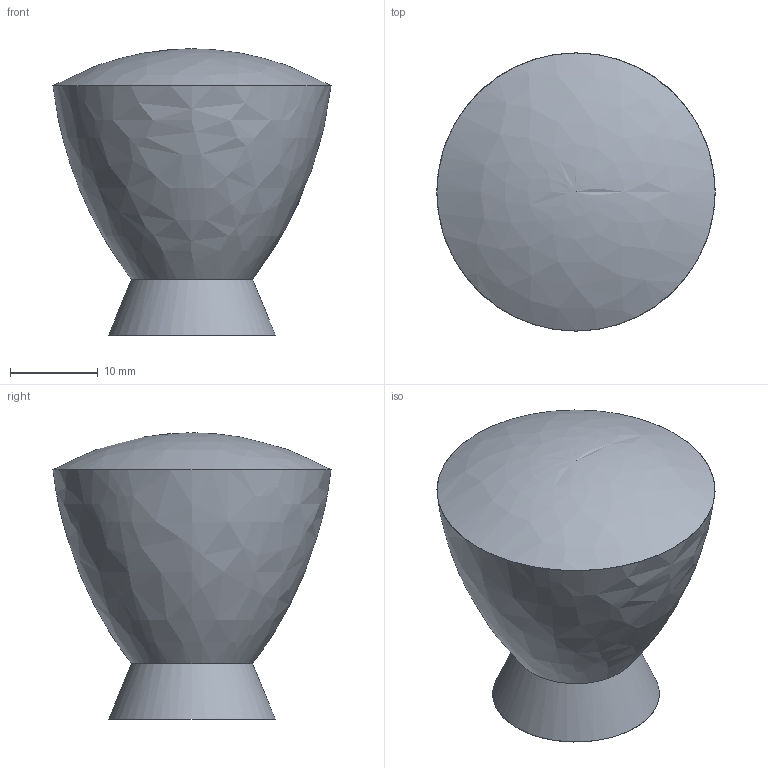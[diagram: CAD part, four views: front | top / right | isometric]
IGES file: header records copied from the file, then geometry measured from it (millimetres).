
Start section: C
Global section: file name: 065-32I.igs; native system: By Siemens PLM Incorporated; preprocessor: XPlus GENERIC/IGES 16.0.42; author: Author; organization: Title; date: 20231129.113928; units: millimetre
Bounding box: 31.7 x 31.7 x 32.6 mm (x, y, z)
Surface area: 4591.2 mm2 (no closed solid volume)
Topology: 0 solids, 0 shells, 922 faces, 5507 edges, 5506 vertices
Faces by surface type: bspline 922
